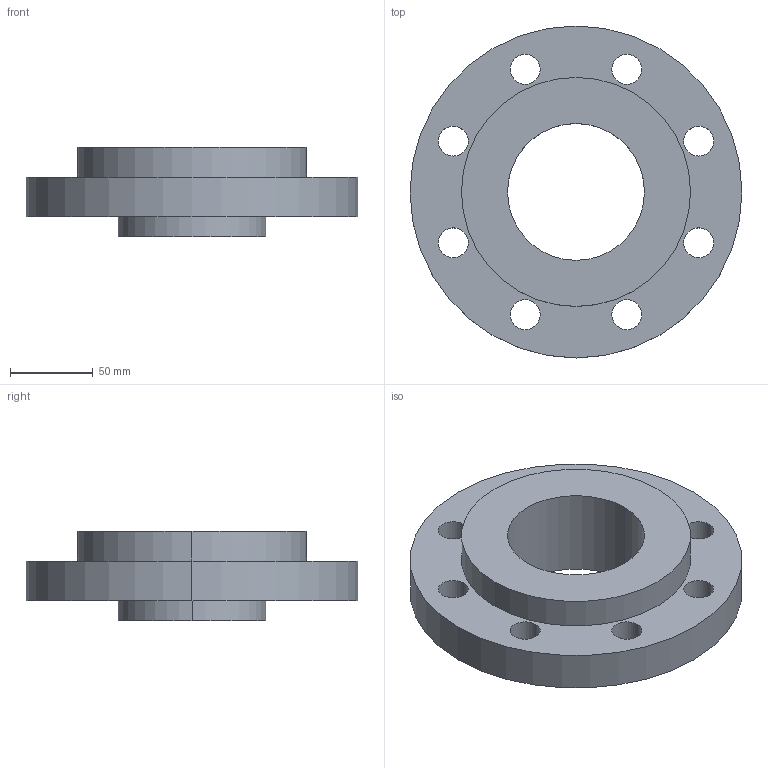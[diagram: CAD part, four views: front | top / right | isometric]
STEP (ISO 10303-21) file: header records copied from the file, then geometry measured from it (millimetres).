
FILE_DESCRIPTION (( 'STEP AP214' ), '1' );
FILE_NAME ('PN40 DN80 Type 04 in 34 - (Type A Face).STEP', '2019-01-01T19:46:08', ( '' ), ( '' ), 'SwSTEP 2.0', 'SolidWorks 2019', '' );
FILE_SCHEMA (( 'AUTOMOTIVE_DESIGN' ));
Length unit declared in the file: millimetre
Products named in the file (1): PN40 DN80 Type 04 in 34 - (Type A Face)
Bounding box: 200 x 200 x 54 mm (x, y, z)
Volume: 668249.2 mm3; surface area: 121391.1 mm2
Topology: 2 solids, 2 shells, 37 faces, 90 edges, 58 vertices
Faces by surface type: cylinder 26, cone 6, plane 5
Entity records: 1197 total; most frequent: DIRECTION 224, CARTESIAN_POINT 186, ORIENTED_EDGE 180, AXIS2_PLACEMENT_3D 96, EDGE_CURVE 90, CIRCLE 58, EDGE_LOOP 58, VERTEX_POINT 58
